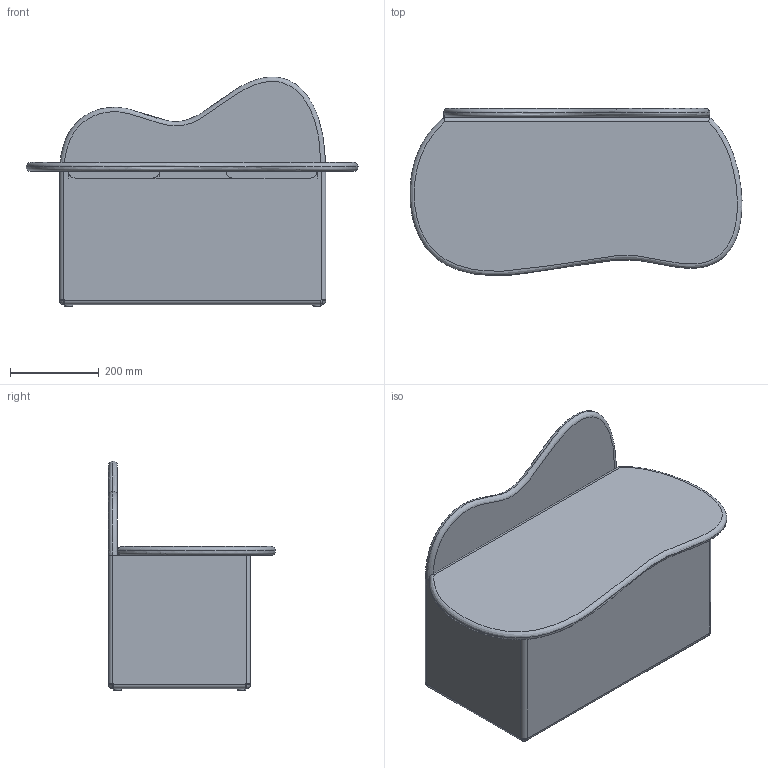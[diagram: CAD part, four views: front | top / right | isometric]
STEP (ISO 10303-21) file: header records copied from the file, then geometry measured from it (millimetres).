
FILE_DESCRIPTION(/* description */ (''),/* implementation_level */ '2;1');
FILE_NAME(/* name */ 'Slope Storage Bench_Ferm Living_3D',/* time_stamp */ '2023-03-20T09:50:04+01:00',/* author */ (''),/* organization */ (''),/* preprocessor_version */ 'ST-DEVELOPER v16.5',/* originating_system */ 'Rhino 7.27',/* authorisation */ '');
FILE_SCHEMA (('CONFIG_CONTROL_DESIGN'));
Length unit declared in the file: millimetre
Products named in the file (1): Document
Bounding box: 746.91 x 376.09 x 517.18 mm (x, y, z)
Volume: 6432728.5 mm3; surface area: 2083220.4 mm2
Topology: 6 solids, 7 shells, 81 faces, 206 edges, 128 vertices
Faces by surface type: plane 41, bspline 26, cylinder 14
Entity records: 4246 total; most frequent: CARTESIAN_POINT 2905, ORIENTED_EDGE 382, EDGE_CURVE 198, VERTEX_POINT 128, B_SPLINE_CURVE_WITH_KNOTS 106, EDGE_LOOP 85, ADVANCED_FACE 81, FACE_OUTER_BOUND 81
